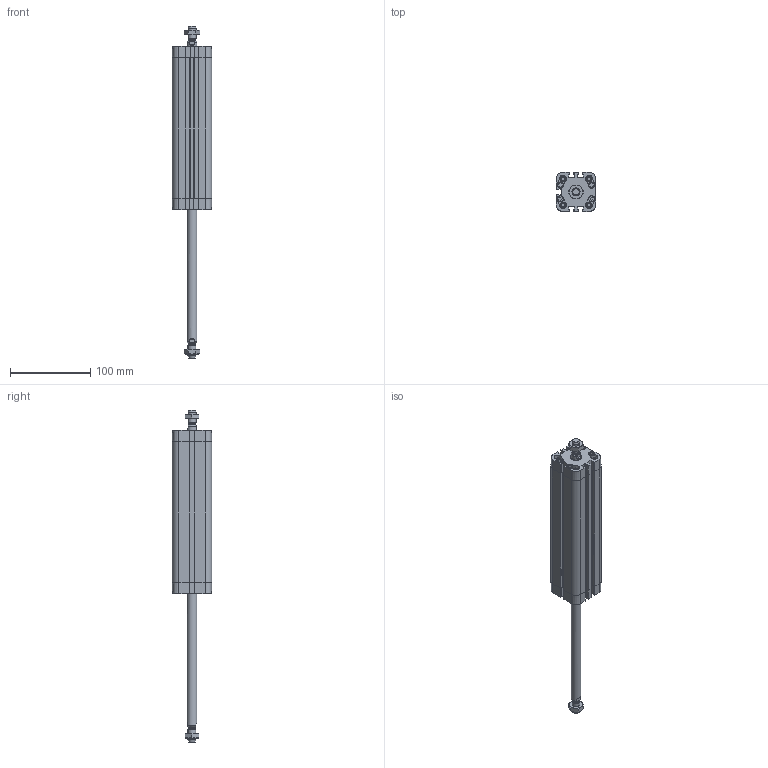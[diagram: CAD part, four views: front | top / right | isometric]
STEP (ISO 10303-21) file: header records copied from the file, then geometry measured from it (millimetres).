
FILE_DESCRIPTION(/* description */ ('Unknown'),/* implementation_level */ '2;1');
FILE_NAME(/* name */ 'ZBF 32_160',/* time_stamp */ '2024-11-18T11:42:59+01:00',/* author */ ('Unknown'),/* organization */ ('Unknown'),/* preprocessor_version */ 'ST-DEVELOPER v16.7',/* originating_system */ 'Solid Edge',/* authorisation */ 'Unknown');
FILE_SCHEMA (('AUTOMOTIVE_DESIGN {1 0 10303 214 3 1 1}'));
Length unit declared in the file: millimetre
Products named in the file (5): ZBF 32_160; Profilrohr; Kolbenstange; Kit; Mutter
Assembly tree (7 placements, depth 2):
  ZBF 32_160
    Profilrohr
    Kolbenstange  x2
    Kit  x2
    Mutter  x2
Bounding box: 49 x 49 x 415 mm (x, y, z)
Volume: 341593.3 mm3; surface area: 110798.8 mm2
Topology: 7 solids, 15 shells, 807 faces, 2061 edges, 1342 vertices
Faces by surface type: plane 368, cylinder 197, bspline 112, cone 74, torus 56
Full cylindrical faces by diameter (mm): 2.5 x2, 4.917 x8, 5.2 x8, 7.5 x8, 7.9 x2, 8.566 x2, 8.647 x2, 10 x2, 12 x2, 12.54 x2, 13.7 x2, 14 x2, 16.32 x2, 16.5 x2, 32 x3
Entity records: 16333 total; most frequent: CARTESIAN_POINT 3395, ORIENTED_EDGE 2172, DIRECTION 2039, EDGE_CURVE 1086, VERTEX_POINT 745, AXIS2_PLACEMENT_3D 709, LINE 621, VECTOR 621
